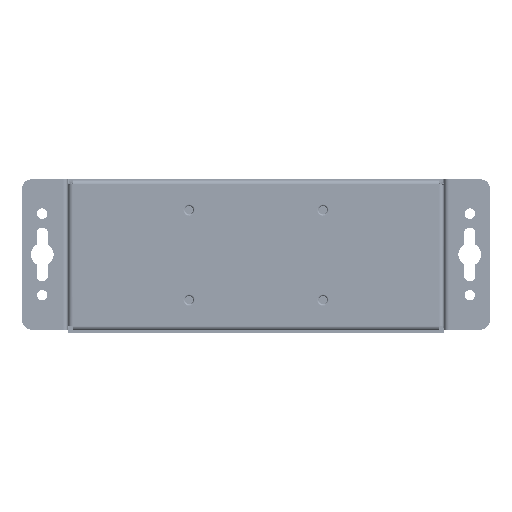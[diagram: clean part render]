
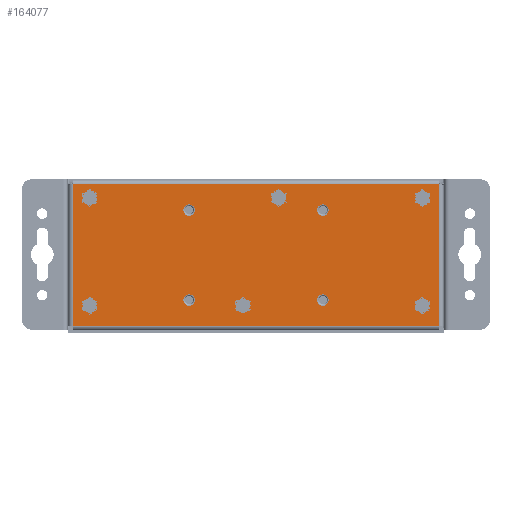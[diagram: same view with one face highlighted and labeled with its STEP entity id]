
A CAD part, front view. The second image highlights one B-rep face of the part: STEP entity #164077.
In plain terms, the highlighted planar face has unit normal (0, -1, 0).
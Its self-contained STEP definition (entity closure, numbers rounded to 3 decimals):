
#8165=FACE_BOUND('',#65038,.T.);
#8166=FACE_BOUND('',#65039,.T.);
#8167=FACE_BOUND('',#65040,.T.);
#8168=FACE_BOUND('',#65041,.T.);
#8169=FACE_BOUND('',#65042,.T.);
#8170=FACE_BOUND('',#65043,.T.);
#8171=FACE_BOUND('',#65044,.T.);
#8172=FACE_BOUND('',#65045,.T.);
#8173=FACE_BOUND('',#65046,.T.);
#8174=FACE_BOUND('',#65047,.T.);
#10018=PLANE('',#173188);
#16873=LINE('',#229165,#35957);
#16874=LINE('',#229167,#35958);
#16875=LINE('',#229169,#35959);
#16876=LINE('',#229170,#35960);
#35957=VECTOR('',#185259,1000.);
#35958=VECTOR('',#185260,1000.);
#35959=VECTOR('',#185261,1000.);
#35960=VECTOR('',#185262,1000.);
#56297=FACE_OUTER_BOUND('',#65037,.T.);
#65037=EDGE_LOOP('',(#117306,#117307,#117308,#117309));
#65038=EDGE_LOOP('',(#117310));
#65039=EDGE_LOOP('',(#117311));
#65040=EDGE_LOOP('',(#117312));
#65041=EDGE_LOOP('',(#117313));
#65042=EDGE_LOOP('',(#117314));
#65043=EDGE_LOOP('',(#117315));
#65044=EDGE_LOOP('',(#117316));
#65045=EDGE_LOOP('',(#117317));
#65046=EDGE_LOOP('',(#117318));
#65047=EDGE_LOOP('',(#117319));
#74346=CIRCLE('',#172974,1.75);
#74350=CIRCLE('',#172979,1.75);
#74354=CIRCLE('',#172984,1.75);
#74358=CIRCLE('',#172989,1.75);
#74432=CIRCLE('',#173095,2.11);
#74434=CIRCLE('',#173098,2.11);
#74436=CIRCLE('',#173101,2.11);
#74438=CIRCLE('',#173104,2.11);
#74440=CIRCLE('',#173107,2.11);
#74442=CIRCLE('',#173110,2.11);
#77514=VERTEX_POINT('',#226759);
#77517=VERTEX_POINT('',#226767);
#77520=VERTEX_POINT('',#226775);
#77523=VERTEX_POINT('',#226783);
#77590=VERTEX_POINT('',#226978);
#77592=VERTEX_POINT('',#226984);
#77594=VERTEX_POINT('',#226990);
#77596=VERTEX_POINT('',#226996);
#77598=VERTEX_POINT('',#227002);
#77600=VERTEX_POINT('',#227008);
#78011=VERTEX_POINT('',#229163);
#78012=VERTEX_POINT('',#229164);
#78013=VERTEX_POINT('',#229166);
#78014=VERTEX_POINT('',#229168);
#93060=EDGE_CURVE('',#77514,#77514,#74346,.T.);
#93064=EDGE_CURVE('',#77517,#77517,#74350,.T.);
#93068=EDGE_CURVE('',#77520,#77520,#74354,.T.);
#93072=EDGE_CURVE('',#77523,#77523,#74358,.T.);
#93168=EDGE_CURVE('',#77590,#77590,#74432,.T.);
#93171=EDGE_CURVE('',#77592,#77592,#74434,.T.);
#93174=EDGE_CURVE('',#77594,#77594,#74436,.T.);
#93177=EDGE_CURVE('',#77596,#77596,#74438,.T.);
#93180=EDGE_CURVE('',#77598,#77598,#74440,.T.);
#93183=EDGE_CURVE('',#77600,#77600,#74442,.T.);
#93595=EDGE_CURVE('',#78011,#78012,#16873,.T.);
#93596=EDGE_CURVE('',#78012,#78013,#16874,.T.);
#93597=EDGE_CURVE('',#78013,#78014,#16875,.T.);
#93598=EDGE_CURVE('',#78014,#78011,#16876,.T.);
#117306=ORIENTED_EDGE('',*,*,#93595,.T.);
#117307=ORIENTED_EDGE('',*,*,#93596,.T.);
#117308=ORIENTED_EDGE('',*,*,#93597,.T.);
#117309=ORIENTED_EDGE('',*,*,#93598,.T.);
#117310=ORIENTED_EDGE('',*,*,#93072,.T.);
#117311=ORIENTED_EDGE('',*,*,#93068,.T.);
#117312=ORIENTED_EDGE('',*,*,#93064,.T.);
#117313=ORIENTED_EDGE('',*,*,#93060,.T.);
#117314=ORIENTED_EDGE('',*,*,#93168,.T.);
#117315=ORIENTED_EDGE('',*,*,#93171,.T.);
#117316=ORIENTED_EDGE('',*,*,#93174,.T.);
#117317=ORIENTED_EDGE('',*,*,#93177,.T.);
#117318=ORIENTED_EDGE('',*,*,#93180,.T.);
#117319=ORIENTED_EDGE('',*,*,#93183,.T.);
#164077=ADVANCED_FACE('',(#56297,#8165,#8166,#8167,#8168,#8169,#8170,#8171,
#8172,#8173,#8174),#10018,.F.);
#172974=AXIS2_PLACEMENT_3D('',#226760,#184545,#184546);
#172979=AXIS2_PLACEMENT_3D('',#226768,#184555,#184556);
#172984=AXIS2_PLACEMENT_3D('',#226776,#184565,#184566);
#172989=AXIS2_PLACEMENT_3D('',#226784,#184575,#184576);
#173095=AXIS2_PLACEMENT_3D('',#226979,#184809,#184810);
#173098=AXIS2_PLACEMENT_3D('',#226985,#184816,#184817);
#173101=AXIS2_PLACEMENT_3D('',#226991,#184823,#184824);
#173104=AXIS2_PLACEMENT_3D('',#226997,#184830,#184831);
#173107=AXIS2_PLACEMENT_3D('',#227003,#184837,#184838);
#173110=AXIS2_PLACEMENT_3D('',#227009,#184844,#184845);
#173188=AXIS2_PLACEMENT_3D('',#229162,#185257,#185258);
#184545=DIRECTION('center_axis',(0.,1.,0.));
#184546=DIRECTION('ref_axis',(0.,0.,1.));
#184555=DIRECTION('center_axis',(0.,1.,0.));
#184556=DIRECTION('ref_axis',(0.,0.,1.));
#184565=DIRECTION('center_axis',(0.,1.,0.));
#184566=DIRECTION('ref_axis',(0.,0.,1.));
#184575=DIRECTION('center_axis',(0.,1.,0.));
#184576=DIRECTION('ref_axis',(0.,0.,1.));
#184809=DIRECTION('center_axis',(0.,1.,0.));
#184810=DIRECTION('ref_axis',(0.,0.,1.));
#184816=DIRECTION('center_axis',(0.,1.,0.));
#184817=DIRECTION('ref_axis',(0.,0.,1.));
#184823=DIRECTION('center_axis',(0.,1.,0.));
#184824=DIRECTION('ref_axis',(0.,0.,1.));
#184830=DIRECTION('center_axis',(0.,1.,0.));
#184831=DIRECTION('ref_axis',(0.,0.,1.));
#184837=DIRECTION('center_axis',(0.,1.,0.));
#184838=DIRECTION('ref_axis',(0.,0.,1.));
#184844=DIRECTION('center_axis',(0.,1.,0.));
#184845=DIRECTION('ref_axis',(0.,0.,1.));
#185257=DIRECTION('center_axis',(0.,1.,0.));
#185258=DIRECTION('ref_axis',(0.,0.,1.));
#185259=DIRECTION('',(0.,0.,-1.));
#185260=DIRECTION('',(1.,0.,0.));
#185261=DIRECTION('',(0.,0.,1.));
#185262=DIRECTION('',(-1.,0.,0.));
#226759=CARTESIAN_POINT('',(-20.5,0.,-15.53));
#226760=CARTESIAN_POINT('Origin',(-20.5,0.,-13.78));
#226767=CARTESIAN_POINT('',(-20.5,0.,12.03));
#226768=CARTESIAN_POINT('Origin',(-20.5,0.,13.78));
#226775=CARTESIAN_POINT('',(20.5,0.,-15.53));
#226776=CARTESIAN_POINT('Origin',(20.5,0.,-13.78));
#226783=CARTESIAN_POINT('',(20.5,0.,12.03));
#226784=CARTESIAN_POINT('Origin',(20.5,0.,13.78));
#226978=CARTESIAN_POINT('',(-51.,0.,-17.61));
#226979=CARTESIAN_POINT('Origin',(-51.,0.,-15.5));
#226984=CARTESIAN_POINT('',(-4.,0.,-17.61));
#226985=CARTESIAN_POINT('Origin',(-4.,0.,-15.5));
#226990=CARTESIAN_POINT('',(51.,0.,-17.61));
#226991=CARTESIAN_POINT('Origin',(51.,0.,-15.5));
#226996=CARTESIAN_POINT('',(51.,0.,15.39));
#226997=CARTESIAN_POINT('Origin',(51.,0.,17.5));
#227002=CARTESIAN_POINT('',(7.,0.,15.39));
#227003=CARTESIAN_POINT('Origin',(7.,0.,17.5));
#227008=CARTESIAN_POINT('',(-51.,0.,15.39));
#227009=CARTESIAN_POINT('Origin',(-51.,0.,17.5));
#229162=CARTESIAN_POINT('Origin',(0.,0.,0.));
#229163=CARTESIAN_POINT('',(-56.2,0.,21.7));
#229164=CARTESIAN_POINT('',(-56.2,0.,-21.7));
#229165=CARTESIAN_POINT('',(-56.2,0.,21.7));
#229166=CARTESIAN_POINT('',(56.2,0.,-21.7));
#229167=CARTESIAN_POINT('',(-57.5,0.,-21.7));
#229168=CARTESIAN_POINT('',(56.2,0.,21.7));
#229169=CARTESIAN_POINT('',(56.2,0.,-21.7));
#229170=CARTESIAN_POINT('',(57.5,0.,21.7));
